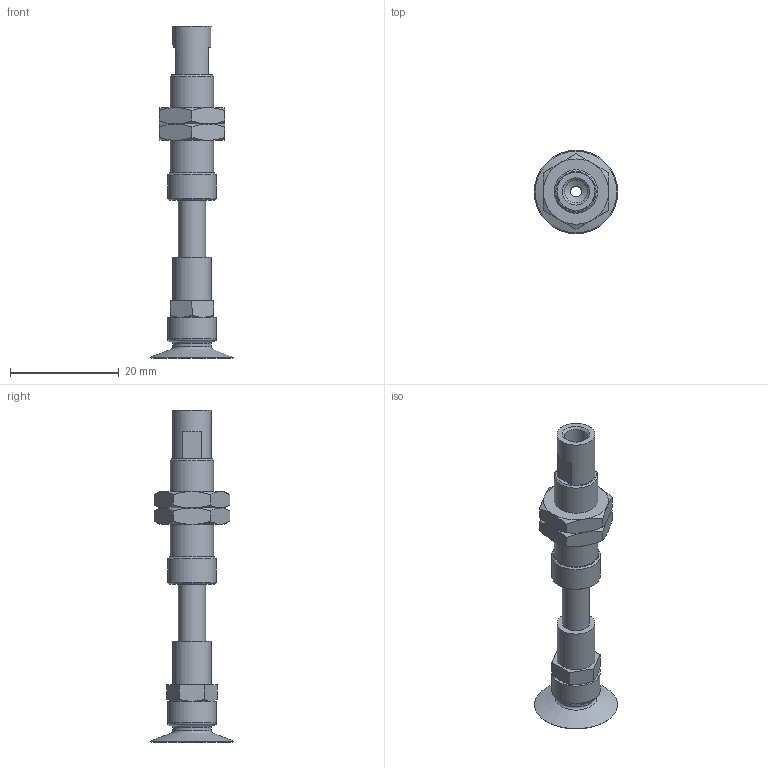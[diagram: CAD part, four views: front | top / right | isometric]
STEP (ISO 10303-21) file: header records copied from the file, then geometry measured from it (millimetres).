
FILE_DESCRIPTION(('STEP AP203'),'1');
FILE_NAME('-PE.stp','2025-04-01T05:19:20',(' '),(' '),'Spatial InterOp 3D',' ',' ');
FILE_SCHEMA(('CONFIG_CONTROL_DESIGN'));
Length unit declared in the file: millimetre
Products named in the file (8): BNABPATS-15A-10-※-PE; ZIG; BODY; NUT; TN-PS-10-M5; Setting screws-TN-PS-10-M5; BPAG-15A-※
Assembly tree (7 placements, depth 3):
  BNABPATS-15A-10-※-PE
    ZIG
    BODY
    NUT
    NUT
    TN-PS-10-M5
      Setting screws-TN-PS-10-M5
    BPAG-15A-※
Bounding box: 15.3 x 15.3 x 61 mm (x, y, z)
Volume: 2733.3 mm3; surface area: 4200.3 mm2
Topology: 6 solids, 6 shells, 168 faces, 331 edges, 203 vertices
Faces by surface type: plane 74, cone 46, cylinder 40, torus 8
Full cylindrical faces by diameter (mm): 0.9 x16, 2 x3, 3.9 x1, 4 x4, 4.2 x2, 5 x3, 5.2 x1, 6 x2, 7 x3, 7.25 x2, 8 x1, 9 x2
Entity records: 4358 total; most frequent: CARTESIAN_POINT 807, DIRECTION 688, ORIENTED_EDGE 510, AXIS2_PLACEMENT_3D 316, EDGE_LOOP 272, EDGE_CURVE 255, FACE_OUTER_BOUND 216, VERTEX_POINT 191
